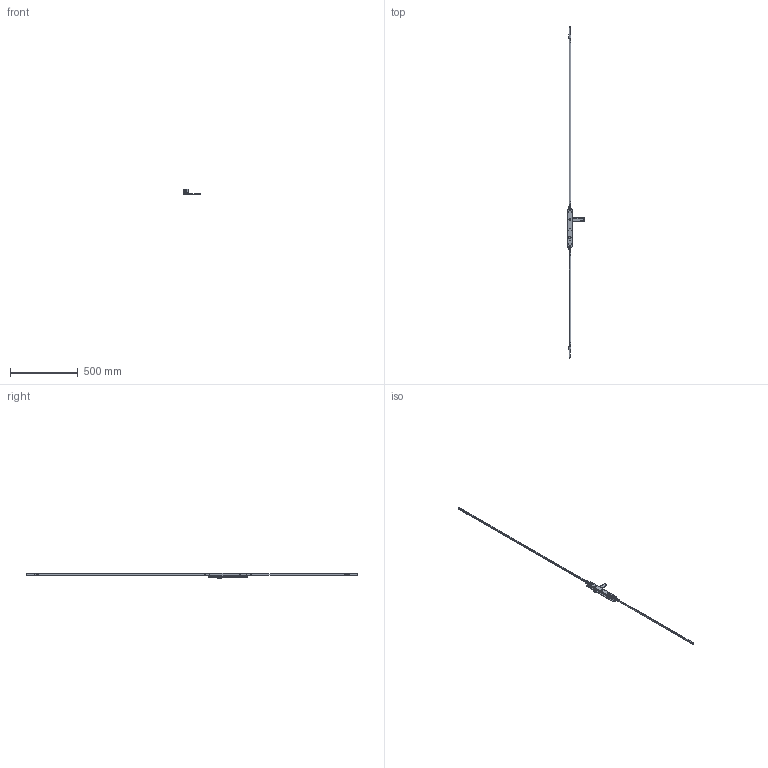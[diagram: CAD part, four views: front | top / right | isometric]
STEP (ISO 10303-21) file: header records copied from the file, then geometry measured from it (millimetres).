
FILE_DESCRIPTION (( 'STEP AP214' ), '1' );
FILE_NAME ('TPL-H-APC-103-A 17Oct2024.STEP', '2024-10-17T04:32:44', ( '' ), ( '' ), 'SwSTEP 2.0', 'SolidWorks 2023', '' );
FILE_SCHEMA (( 'AUTOMOTIVE_DESIGN' ));
Length unit declared in the file: millimetre
Products named in the file (17): Copy of LKC-532 Rod connector - simplified^TPL-H-APC-604 16Oct2024; Copy of TPLGen2 push rod - simplified^Copy of TPLGen2 lock body keyed assembly_TPL-H-APC-604 16Oct2024_Female thread M10; Copy of LKC-585 Rotator body zinc^Copy of TPGen2 handle keyed internal zinc - simplified_TPL-H-APC-604 16Oct2024; Copy of LKC-586 Spindle square 8mm with M4 hole^Copy of TPGen2 handle keyed internal zinc - simplified_TPL-H-APC-604 16Oct2024_25mm; Copy of TPL-H-APC-517 04Oct2024^TPL-H-APC-604 16Oct2024; Copy of LKC-540 Transmission rod aluminium system TPLGen2^TPL-H-APC-604 16Oct2024_2885mm; Copy (2) of LKC-540 Transmission rod aluminium system TPLGen2^TPL-H-APC-604 16Oct2024_2885mm; Copy of LKC-584 Pivot body zinc - simplified^Copy of TPGen2 handle keyed internal zinc - simplified_TPL-H-APC-604 16Oct2024; Copy of LKC-576 Bolt adaptor - simplified^TPL-H-APC-604 16Oct2024; Copy of TPL-022 Lock cylinder single 3 pin 23mm^TPL-H-APC-604 16Oct2024_Right; Copy of TPL-H-APC-515 04Oct2024^TPL-H-APC-604 16Oct2024; Copy of TPGen2 handle keyed internal zinc - simplified^TPL-H-APC-604 16Oct2024_Left; Copy of LKC-505 Swing handle zinc - simplified^Copy of TPGen2 handle keyed internal zinc - simplified_TPL-H-APC-604 16Oct2024; Copy of LKC-512 Escutcheon plate keyed internal 285mm long zinc - simplified^Copy of TPGen2 handle keyed internal zinc - simplified_TPL-H-APC-604 16Oct2024; TPL-H-APC-103-A 17Oct2024; Copy of TPLGen2 lock body keyed assembly^TPL-H-APC-604 16Oct2024_Bolts retracted - right; Copy of TPLGen2 lock body keyed^Copy of TPLGen2 lock body keyed assembly_TPL-H-APC-604 16Oct2024_Right
Assembly tree (22 placements, depth 3):
  TPL-H-APC-103-A 17Oct2024
    Copy of TPLGen2 lock body keyed assembly^TPL-H-APC-604 16Oct2024_Bolts retracted - right
      Copy of TPLGen2 lock body keyed^Copy of TPLGen2 lock body keyed assembly_TPL-H-APC-604 16Oct2024_Right
      Copy of TPLGen2 push rod - simplified^Copy of TPLGen2 lock body keyed assembly_TPL-H-APC-604 16Oct2024_Female thread M10  x2
    Copy of TPGen2 handle keyed internal zinc - simplified^TPL-H-APC-604 16Oct2024_Left
      Copy of LKC-512 Escutcheon plate keyed internal 285mm long zinc - simplified^Copy of TPGen2 handle keyed internal zinc - simplified_TPL-H-APC-604 16Oct2024
      Copy of LKC-505 Swing handle zinc - simplified^Copy of TPGen2 handle keyed internal zinc - simplified_TPL-H-APC-604 16Oct2024
      Copy of LKC-585 Rotator body zinc^Copy of TPGen2 handle keyed internal zinc - simplified_TPL-H-APC-604 16Oct2024
      Copy of LKC-586 Spindle square 8mm with M4 hole^Copy of TPGen2 handle keyed internal zinc - simplified_TPL-H-APC-604 16Oct2024_25mm
      Copy of LKC-584 Pivot body zinc - simplified^Copy of TPGen2 handle keyed internal zinc - simplified_TPL-H-APC-604 16Oct2024
    Copy of LKC-532 Rod connector - simplified^TPL-H-APC-604 16Oct2024  x2
    Copy of LKC-540 Transmission rod aluminium system TPLGen2^TPL-H-APC-604 16Oct2024_2885mm
    Copy (2) of LKC-540 Transmission rod aluminium system TPLGen2^TPL-H-APC-604 16Oct2024_2885mm
    Copy of LKC-576 Bolt adaptor - simplified^TPL-H-APC-604 16Oct2024  x2
    Copy of TPL-H-APC-517 04Oct2024^TPL-H-APC-604 16Oct2024  x2
    Copy of TPL-H-APC-515 04Oct2024^TPL-H-APC-604 16Oct2024  x3
    Copy of TPL-022 Lock cylinder single 3 pin 23mm^TPL-H-APC-604 16Oct2024_Right
Bounding box: 125.62 x 2445.9 x 42.36 mm (x, y, z)
Volume: 336965.2 mm3; surface area: 229400.3 mm2
Topology: 20 solids, 20 shells, 1319 faces, 3207 edges, 1942 vertices
Faces by surface type: cylinder 431, plane 395, bspline 224, cone 123, torus 113, sphere 33
Entity records: 33180 total; most frequent: CARTESIAN_POINT 13173, ORIENTED_EDGE 4218, DIRECTION 3916, EDGE_CURVE 2109, AXIS2_PLACEMENT_3D 1552, VERTEX_POINT 1287, EDGE_LOOP 988, ADVANCED_FACE 889
